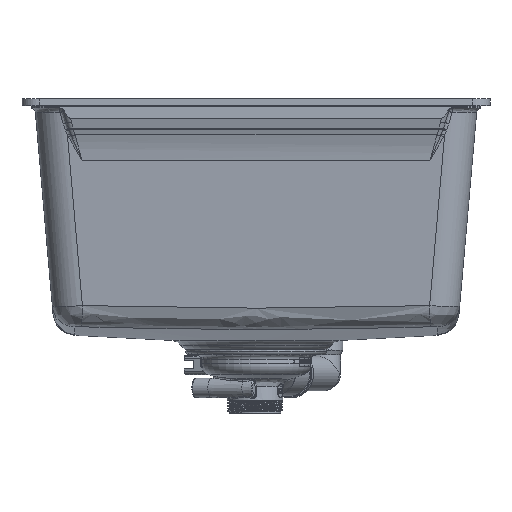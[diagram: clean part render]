
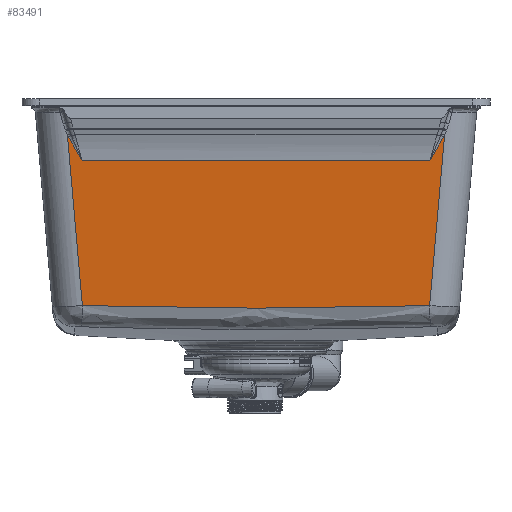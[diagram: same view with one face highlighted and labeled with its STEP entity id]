
A CAD part, left-side view. The second image highlights one B-rep face of the part: STEP entity #83491.
In plain terms, the highlighted planar face has unit normal (-0.996, 0, -0.087).
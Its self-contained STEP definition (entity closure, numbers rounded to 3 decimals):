
#1963=ELLIPSE('',#88902,41.287,9.);
#1964=ELLIPSE('',#88912,41.287,9.);
#2215=B_SPLINE_CURVE_WITH_KNOTS('',3,(#116461,#116462,#116463,#116464,#116465,
#116466),.UNSPECIFIED.,.F.,.F.,(4,2,4),(-2.388,-2.383,
0.),.UNSPECIFIED.);
#2229=B_SPLINE_CURVE_WITH_KNOTS('',3,(#116798,#116799,#116800,#116801,#116802,
#116803),.UNSPECIFIED.,.F.,.F.,(4,2,4),(-2.383,0.,0.004),
 .UNSPECIFIED.);
#2244=B_SPLINE_CURVE_WITH_KNOTS('',3,(#117481,#117482,#117483,#117484,#117485,
#117486),.UNSPECIFIED.,.F.,.F.,(4,1,1,4),(0.,12.818,21.363,
29.908),.UNSPECIFIED.);
#5179=PLANE('',#88978);
#7875=FACE_OUTER_BOUND('',#12745,.T.);
#12745=EDGE_LOOP('',(#57381,#57382,#57383,#57384,#57385,#57386,#57387,#57388));
#17911=LINE('',#116931,#25512);
#17927=LINE('',#117479,#25528);
#17928=LINE('',#117487,#25529);
#25512=VECTOR('',#95698,10.);
#25528=VECTOR('',#95808,10.);
#25529=VECTOR('',#95809,10.);
#35623=VERTEX_POINT('',#116451);
#35625=VERTEX_POINT('',#116454);
#35626=VERTEX_POINT('',#116483);
#35640=VERTEX_POINT('',#116766);
#35641=VERTEX_POINT('',#116768);
#35643=VERTEX_POINT('',#116797);
#35676=VERTEX_POINT('',#117478);
#35677=VERTEX_POINT('',#117480);
#44066=EDGE_CURVE('',#35625,#35623,#2215,.T.);
#44069=EDGE_CURVE('',#35623,#35626,#1963,.T.);
#44092=EDGE_CURVE('',#35640,#35641,#1964,.T.);
#44095=EDGE_CURVE('',#35641,#35643,#2229,.T.);
#44113=EDGE_CURVE('',#35643,#35625,#17911,.T.);
#44173=EDGE_CURVE('',#35640,#35676,#17927,.T.);
#44174=EDGE_CURVE('',#35677,#35676,#2244,.T.);
#44175=EDGE_CURVE('',#35626,#35677,#17928,.T.);
#57381=ORIENTED_EDGE('',*,*,#44066,.F.);
#57382=ORIENTED_EDGE('',*,*,#44113,.F.);
#57383=ORIENTED_EDGE('',*,*,#44095,.F.);
#57384=ORIENTED_EDGE('',*,*,#44092,.F.);
#57385=ORIENTED_EDGE('',*,*,#44173,.T.);
#57386=ORIENTED_EDGE('',*,*,#44174,.F.);
#57387=ORIENTED_EDGE('',*,*,#44175,.F.);
#57388=ORIENTED_EDGE('',*,*,#44069,.F.);
#83491=ADVANCED_FACE('',(#7875),#5179,.T.);
#88902=AXIS2_PLACEMENT_3D('',#116487,#95634,#95635);
#88912=AXIS2_PLACEMENT_3D('',#116769,#95654,#95655);
#88978=AXIS2_PLACEMENT_3D('',#117477,#95806,#95807);
#95634=DIRECTION('center_axis',(-0.996,0.,
-0.087));
#95635=DIRECTION('ref_axis',(0.084,0.253,-0.964));
#95654=DIRECTION('center_axis',(-0.996,0.,
-0.087));
#95655=DIRECTION('ref_axis',(0.084,-0.253,-0.964));
#95698=DIRECTION('',(0.,-1.,0.));
#95806=DIRECTION('center_axis',(-0.996,0.,
-0.087));
#95807=DIRECTION('ref_axis',(0.,1.,0.));
#95808=DIRECTION('',(0.087,-0.087,-0.992));
#95809=DIRECTION('',(0.087,0.087,-0.992));
#116451=CARTESIAN_POINT('',(-238.147,-161.665,-32.875));
#116454=CARTESIAN_POINT('',(-236.345,-149.721,-53.468));
#116461=CARTESIAN_POINT('Ctrl Pts',(-236.345,-149.721,
-53.468));
#116462=CARTESIAN_POINT('Ctrl Pts',(-236.346,-149.729,
-53.456));
#116463=CARTESIAN_POINT('Ctrl Pts',(-236.347,-149.736,
-53.444));
#116464=CARTESIAN_POINT('Ctrl Pts',(-236.939,-153.878,
-46.674));
#116465=CARTESIAN_POINT('Ctrl Pts',(-237.532,-158.016,
-39.906));
#116466=CARTESIAN_POINT('Ctrl Pts',(-238.147,-161.665,
-32.875));
#116483=CARTESIAN_POINT('',(-238.268,-162.367,-31.485));
#116487=CARTESIAN_POINT('Origin',(-240.785,-163.11,-2.716));
#116766=CARTESIAN_POINT('',(-238.268,162.367,-31.485));
#116768=CARTESIAN_POINT('',(-238.147,161.665,-32.875));
#116769=CARTESIAN_POINT('Origin',(-240.785,163.11,-2.716));
#116797=CARTESIAN_POINT('',(-236.345,149.721,-53.468));
#116798=CARTESIAN_POINT('Ctrl Pts',(-238.147,161.665,
-32.875));
#116799=CARTESIAN_POINT('Ctrl Pts',(-237.532,158.016,
-39.906));
#116800=CARTESIAN_POINT('Ctrl Pts',(-236.939,153.879,
-46.674));
#116801=CARTESIAN_POINT('Ctrl Pts',(-236.347,149.736,
-53.444));
#116802=CARTESIAN_POINT('Ctrl Pts',(-236.346,149.729,
-53.456));
#116803=CARTESIAN_POINT('Ctrl Pts',(-236.345,149.721,
-53.468));
#116931=CARTESIAN_POINT('',(-236.345,-92.5,-53.468));
#117477=CARTESIAN_POINT('Origin',(-240.977,-185.,-0.523));
#117478=CARTESIAN_POINT('',(-225.42,149.519,-178.343));
#117479=CARTESIAN_POINT('',(-239.733,163.832,-14.747));
#117480=CARTESIAN_POINT('',(-225.42,-149.519,-178.343));
#117481=CARTESIAN_POINT('Ctrl Pts',(-225.42,-149.519,
-178.343));
#117482=CARTESIAN_POINT('Ctrl Pts',(-225.32,-106.809,
-179.483));
#117483=CARTESIAN_POINT('Ctrl Pts',(-225.208,-35.607,
-180.766));
#117484=CARTESIAN_POINT('Ctrl Pts',(-225.249,64.09,-180.302));
#117485=CARTESIAN_POINT('Ctrl Pts',(-225.353,121.045,
-179.103));
#117486=CARTESIAN_POINT('Ctrl Pts',(-225.42,149.519,
-178.343));
#117487=CARTESIAN_POINT('',(-239.62,-163.719,-16.04));
